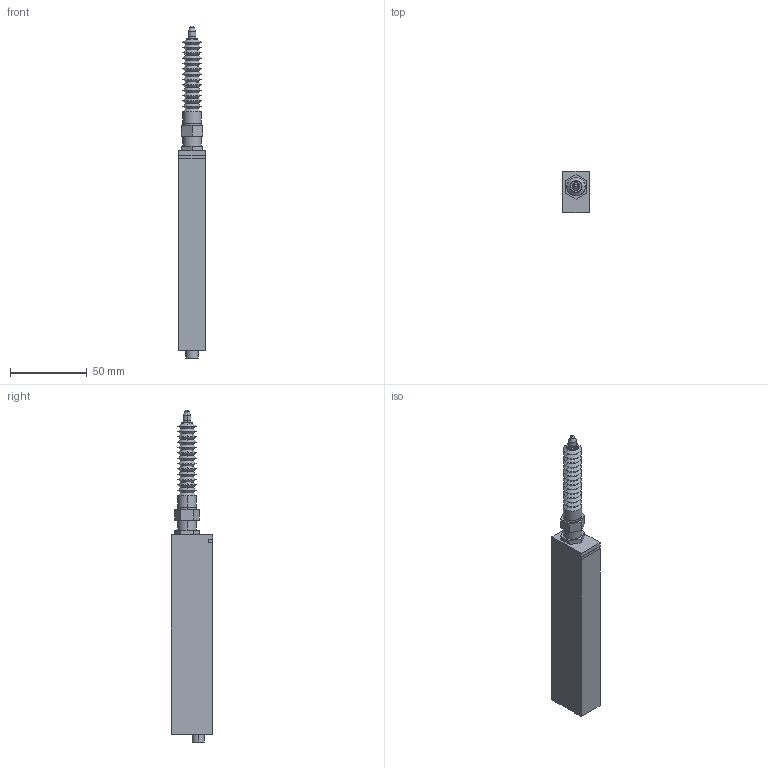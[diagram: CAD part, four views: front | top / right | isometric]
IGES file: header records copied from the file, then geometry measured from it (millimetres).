
Start section: SolidWorks IGES file using analytic representation for surfaces
Global section: file name: D:\3D\sld\hg-s1032.IGS; native system: SolidWorks 2014; preprocessor: SolidWorks 2014; author: C0909; date: 170123.104456; units: millimetre
Bounding box: 17.5 x 27 x 217 mm (x, y, z)
Surface area: 19274.7 mm2 (no closed solid volume)
Topology: 0 solids, 0 shells, 136 faces, 1504 edges, 1503 vertices
Faces by surface type: revolution 92, bspline 44
